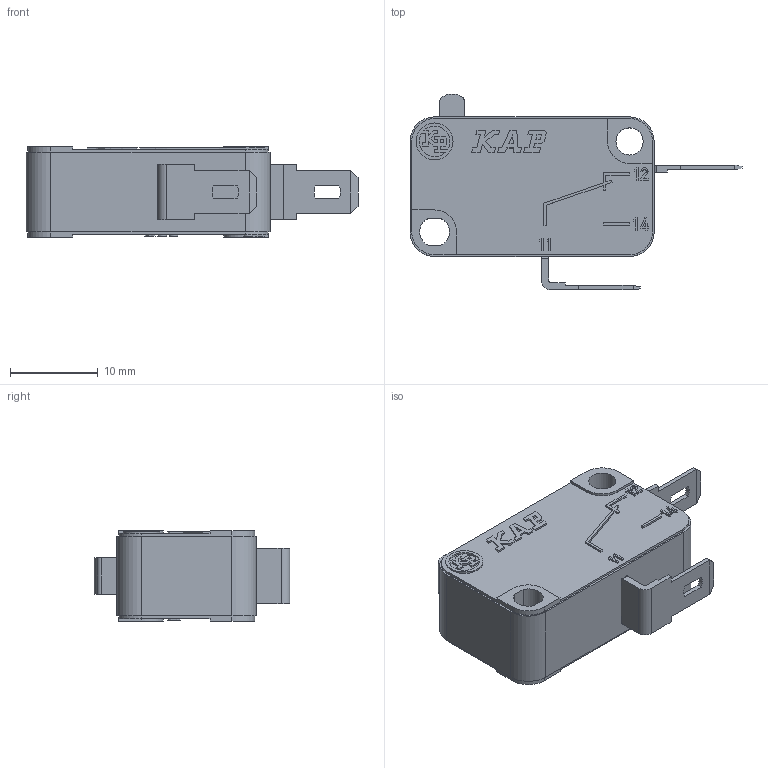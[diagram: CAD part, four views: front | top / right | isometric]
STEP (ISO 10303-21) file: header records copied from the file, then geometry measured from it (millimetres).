
FILE_DESCRIPTION(('Microrutor Miniatura Pino NF'),'2;1');
FILE_NAME('E:\WorkFolder\Serie\MV\STEP\kp_mv_mv#aba#_step_r00.stp','2010-08-24T13:45:07',('DIE'),('KAP'),'Autodesk Inventor 10','Autodesk Inventor 10','Direitos reservados. Proibido reproduo, cedncia ou revelao de contedo a terceiros, salvo com autorizao.');
FILE_SCHEMA(('AUTOMOTIVE_DESIGN { 1 0 10303 214 1 1 1 1 }'));
Length unit declared in the file: millimetre
Products named in the file (3): MV#ABA#; MV_Terminal_BA#; MV_Involucro_Normal
Assembly tree (2 placements, depth 2):
  MV#ABA#
    MV_Terminal_BA#
    MV_Involucro_Normal
Bounding box: 37.8 x 22.3 x 10.3 mm (x, y, z)
Volume: 4173.2 mm3; surface area: 2371.7 mm2
Topology: 4 solids, 4 shells, 396 faces, 1055 edges, 701 vertices
Faces by surface type: plane 343, cylinder 53
Full cylindrical faces by diameter (mm): 3.1 x1, 4.2 x1
Entity records: 12220 total; most frequent: CARTESIAN_POINT 2153, ORIENTED_EDGE 2104, DIRECTION 1960, EDGE_CURVE 1052, VECTOR 946, LINE 946, VERTEX_POINT 700, AXIS2_PLACEMENT_3D 507
